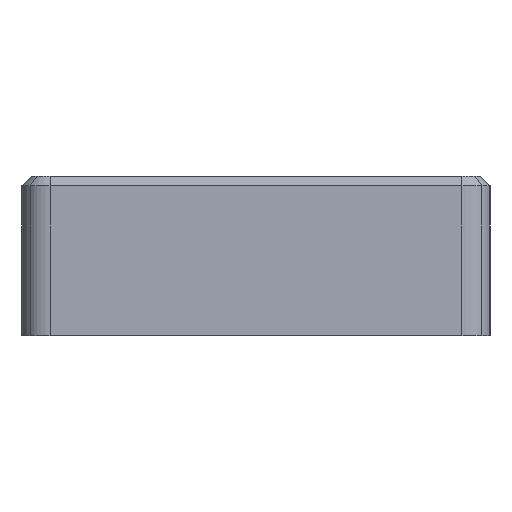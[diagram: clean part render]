
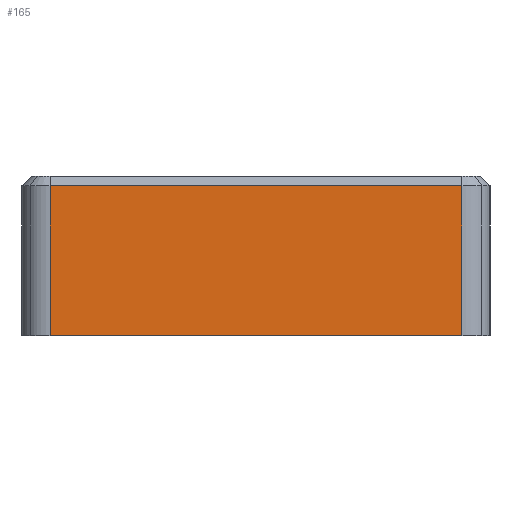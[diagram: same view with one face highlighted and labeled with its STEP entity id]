
A CAD part, left-side view. The second image highlights one B-rep face of the part: STEP entity #165.
In plain terms, the highlighted planar face has unit normal (-1, 0, 0).
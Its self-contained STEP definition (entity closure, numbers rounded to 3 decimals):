
#165=ADVANCED_FACE('',(#394),#395,.F.);
#394=FACE_OUTER_BOUND('',#693,.T.);
#395=PLANE('',#694);
#693=EDGE_LOOP('',(#1101,#1102,#1103,#1104));
#694=AXIS2_PLACEMENT_3D('',#1105,#1106,#1107);
#1101=ORIENTED_EDGE('',*,*,#1889,.F.);
#1102=ORIENTED_EDGE('',*,*,#1890,.F.);
#1103=ORIENTED_EDGE('',*,*,#1891,.F.);
#1104=ORIENTED_EDGE('',*,*,#1892,.F.);
#1105=CARTESIAN_POINT('',(-245.0,0.,0.));
#1106=DIRECTION('',(1.0,0.0,0.0));
#1107=DIRECTION('',(0.0,0.0,-1.0));
#1889=EDGE_CURVE('',#2305,#2180,#2306,.T.);
#1890=EDGE_CURVE('',#2307,#2305,#2308,.T.);
#1891=EDGE_CURVE('',#2309,#2307,#2310,.T.);
#1892=EDGE_CURVE('',#2180,#2309,#2311,.T.);
#2180=VERTEX_POINT('',#2690);
#2305=VERTEX_POINT('',#2851);
#2306=LINE('',#2852,#2853);
#2307=VERTEX_POINT('',#2854);
#2308=LINE('',#2855,#2856);
#2309=VERTEX_POINT('',#2857);
#2310=LINE('',#2858,#2859);
#2311=LINE('',#2860,#2861);
#2690=CARTESIAN_POINT('',(-245.0,-22.0,7.5));
#2851=CARTESIAN_POINT('',(-245.0,22.0,7.5));
#2852=CARTESIAN_POINT('',(-245.0,0.,7.5));
#2853=VECTOR('',#3394,1.0);
#2854=CARTESIAN_POINT('',(-245.0,22.0,-8.5));
#2855=CARTESIAN_POINT('',(-245.0,22.0,0.));
#2856=VECTOR('',#3395,1.0);
#2857=CARTESIAN_POINT('',(-245.0,-22.0,-8.5));
#2858=CARTESIAN_POINT('',(-245.0,0.,-8.5));
#2859=VECTOR('',#3396,1.0);
#2860=CARTESIAN_POINT('',(-245.0,-22.0,0.));
#2861=VECTOR('',#3397,1.0);
#3394=DIRECTION('',(0.0,-1.0,0.0));
#3395=DIRECTION('',(0.0,0.0,1.0));
#3396=DIRECTION('',(0.0,1.0,0.0));
#3397=DIRECTION('',(0.0,0.0,-1.0));
